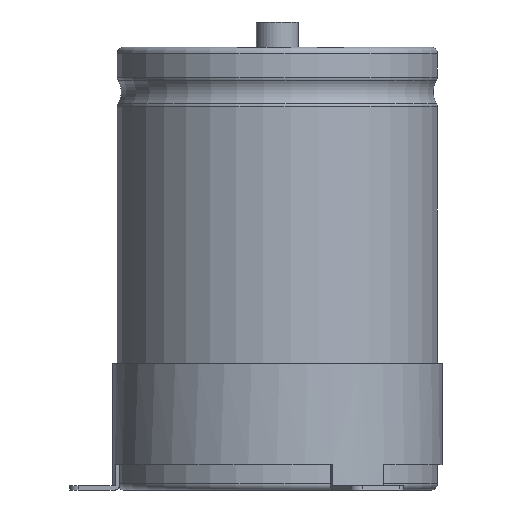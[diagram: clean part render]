
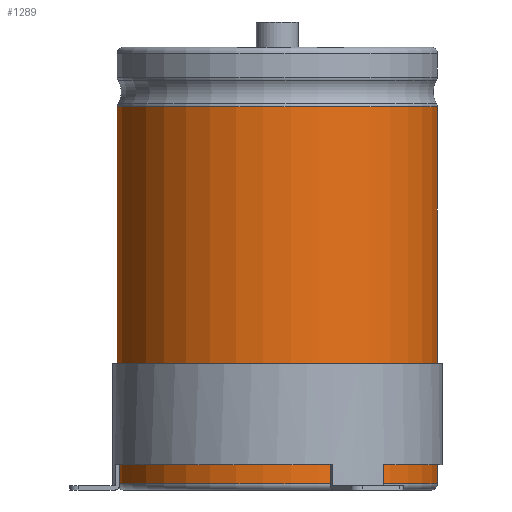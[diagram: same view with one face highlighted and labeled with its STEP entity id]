
A CAD part, front view. The second image highlights one B-rep face of the part: STEP entity #1289.
In plain terms, the highlighted cylindrical face has radius 38.1 mm (diameter 76.2 mm), a partial arc.
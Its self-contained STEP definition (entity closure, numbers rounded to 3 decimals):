
#233=LINE('',#6601,#447);
#234=LINE('',#6605,#448);
#447=VECTOR('',#5224,1.);
#448=VECTOR('',#5227,1.);
#695=FACE_OUTER_BOUND('',#1741,.T.);
#1289=ADVANCED_FACE('',(#695),#1519,.T.);
#1519=CYLINDRICAL_SURFACE('',#4585,38.1);
#1741=EDGE_LOOP('',(#2147,#2148,#2149,#2150));
#2147=ORIENTED_EDGE('',*,*,#3702,.T.);
#2148=ORIENTED_EDGE('',*,*,#3703,.T.);
#2149=ORIENTED_EDGE('',*,*,#3704,.F.);
#2150=ORIENTED_EDGE('',*,*,#3705,.F.);
#3274=VERTEX_POINT('',#6594);
#3276=VERTEX_POINT('',#6598);
#3277=VERTEX_POINT('',#6602);
#3278=VERTEX_POINT('',#6604);
#3702=EDGE_CURVE('',#3274,#3276,#4267,.T.);
#3703=EDGE_CURVE('',#3276,#3277,#233,.T.);
#3704=EDGE_CURVE('',#3278,#3277,#4268,.T.);
#3705=EDGE_CURVE('',#3274,#3278,#234,.T.);
#4267=CIRCLE('',#4582,38.1);
#4268=CIRCLE('',#4584,38.1);
#4582=AXIS2_PLACEMENT_3D('',#6599,#5220,#5221);
#4584=AXIS2_PLACEMENT_3D('',#6603,#5225,#5226);
#4585=AXIS2_PLACEMENT_3D('',#6606,#5228,#5229);
#5220=DIRECTION('',(0.,0.,-1.));
#5221=DIRECTION('',(0.,1.,0.));
#5224=DIRECTION('',(0.,0.,-1.));
#5225=DIRECTION('',(0.,0.,-1.));
#5226=DIRECTION('',(0.,1.,0.));
#5227=DIRECTION('',(0.,0.,-1.));
#5228=DIRECTION('',(0.,0.,-1.));
#5229=DIRECTION('',(0.,1.,0.));
#6594=CARTESIAN_POINT('',(3.983,37.891,90.9));
#6598=CARTESIAN_POINT('',(-3.983,37.891,90.9));
#6599=CARTESIAN_POINT('',(0.,0.,90.9));
#6601=CARTESIAN_POINT('',(-3.983,37.891,90.9));
#6602=CARTESIAN_POINT('',(-3.983,37.891,1.5));
#6603=CARTESIAN_POINT('',(0.,0.,1.5));
#6604=CARTESIAN_POINT('',(3.983,37.891,1.5));
#6605=CARTESIAN_POINT('',(3.983,37.891,90.9));
#6606=CARTESIAN_POINT('',(0.,0.,0.));
